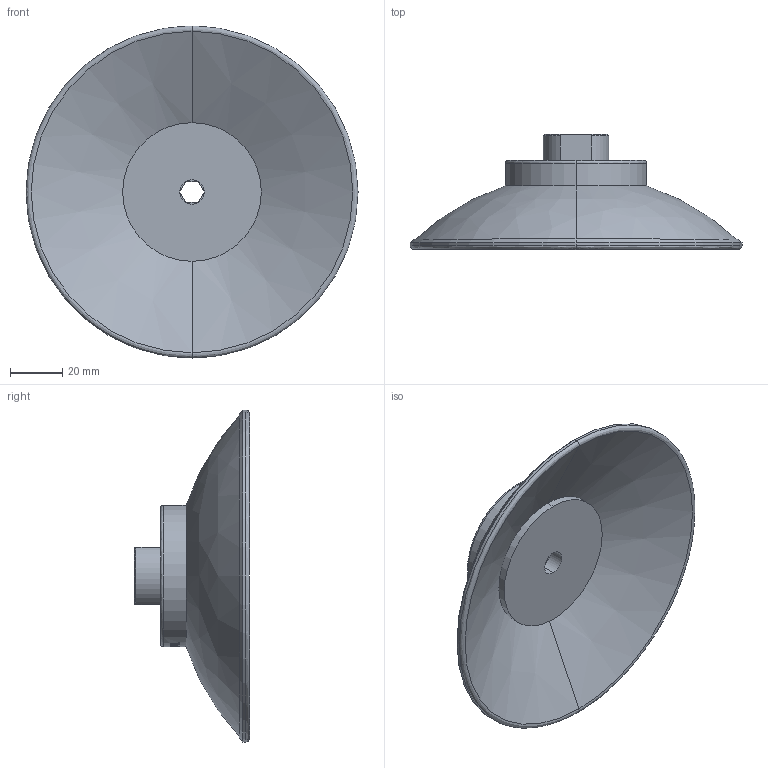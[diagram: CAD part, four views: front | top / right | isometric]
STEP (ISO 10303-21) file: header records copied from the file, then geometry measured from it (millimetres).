
FILE_DESCRIPTION (( 'STEP AP214' ), '1' );
FILE_NAME ('SAF-125-G3-8IG.STEP', '2023-03-07T06:04:02', ( 'Windows User' ), ( 'P R C' ), 'SwSTEP 2.0', 'SolidWorks 2019', '' );
FILE_SCHEMA (( 'AUTOMOTIVE_DESIGN' ));
Length unit declared in the file: millimetre
Products named in the file (1): SAF-125-G3-8IG
Bounding box: 127 x 44 x 127 mm (x, y, z)
Volume: 117164.2 mm3; surface area: 33096.7 mm2
Topology: 1 solids, 1 shells, 94 faces, 229 edges, 148 vertices
Faces by surface type: bspline 35, plane 28, cylinder 21, cone 10
Entity records: 13471 total; most frequent: CARTESIAN_POINT 10361, ORIENTED_EDGE 458, DIRECTION 355, EDGE_CURVE 229, VERTEX_POINT 148, AXIS2_PLACEMENT_3D 130, EDGE_LOOP 107, UNCERTAINTY_MEASURE_WITH_UNIT 97
